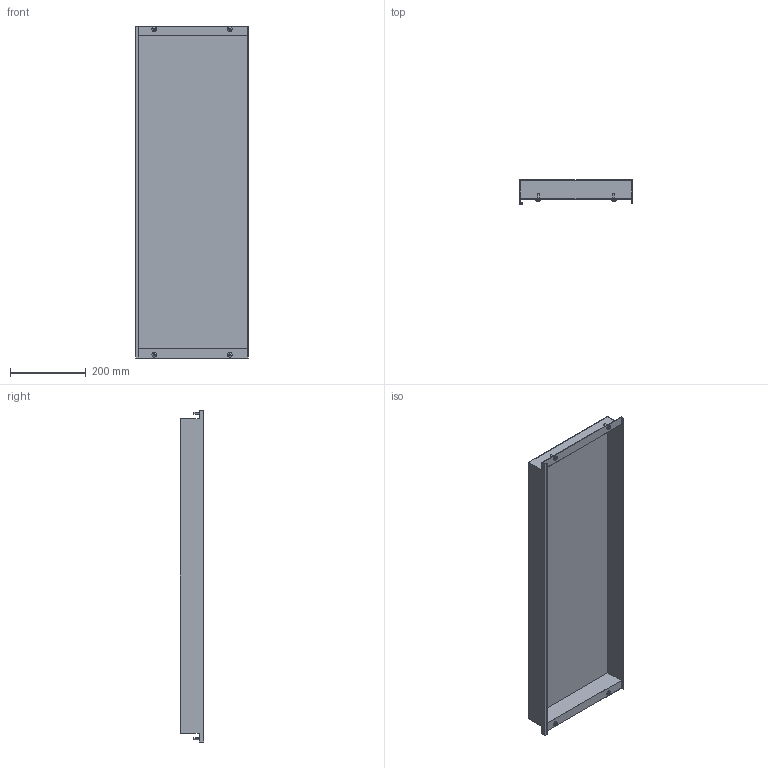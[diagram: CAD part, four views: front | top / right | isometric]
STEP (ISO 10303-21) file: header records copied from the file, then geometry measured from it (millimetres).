
FILE_DESCRIPTION (( 'STEP AP214' ), '1' );
FILE_NAME ('FO-00-PVSU-030-100 Ïëàñòðîí âíóòðåííèé óãëóáëåííûé 300õ1000õ50.STEP', '2025-09-30T08:28:53', ( '' ), ( '' ), 'SwSTEP 2.0', 'SolidWorks 2023', '' );
FILE_SCHEMA (( 'AUTOMOTIVE_DESIGN' ));
Length unit declared in the file: millimetre
Products named in the file (3): FO-00-PVSU-030-100 Пластрон внутренний углубленный 300х1000х50; Винты М6х16 30-100
Assembly tree (3 placements, depth 2):
  FO-00-PVSU-030-100 Пластрон внутренний углубленный 300х1000х50
    FO-00-PVSU-030-100 Пластрон внутренний углубленный 300х1000х50
    Винты М6х16 30-100  x2
Bounding box: 298 x 62.5 x 879 mm (x, y, z)
Volume: 559801.3 mm3; surface area: 801358.6 mm2
Topology: 5 solids, 5 shells, 150 faces, 392 edges, 256 vertices
Faces by surface type: cylinder 88, plane 42, cone 12, bspline 8
Entity records: 3233 total; most frequent: CARTESIAN_POINT 724, ORIENTED_EDGE 512, DIRECTION 500, EDGE_CURVE 256, AXIS2_PLACEMENT_3D 180, VERTEX_POINT 168, LINE 140, VECTOR 140
